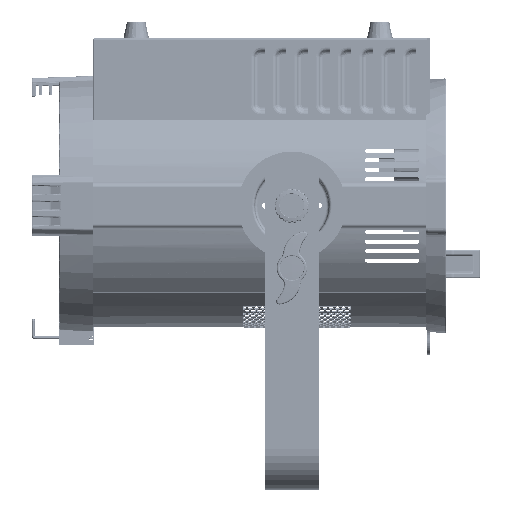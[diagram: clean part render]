
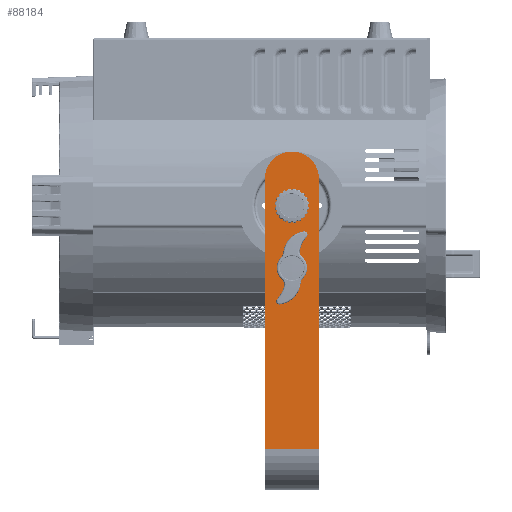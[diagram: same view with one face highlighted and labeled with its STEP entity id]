
A CAD part, left-side view. The second image highlights one B-rep face of the part: STEP entity #88184.
In plain terms, the highlighted planar face has unit normal (-1, 0, 0) as drawn and (0, 1, 0) by its records, which use the part's own axes.
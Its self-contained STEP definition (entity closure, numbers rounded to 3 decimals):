
#87505=CARTESIAN_POINT('',(0.,105.,-105.));
#87506=DIRECTION('',(0.,1.,0.));
#87507=DIRECTION('',(1.,0.,0.));
#87508=AXIS2_PLACEMENT_3D('',#87505,#87506,#87507);
#87513=DIRECTION('',(0.,0.,-1.));
#87514=VECTOR('',#87513,200.);
#87515=CARTESIAN_POINT('',(20.,105.,95.));
#87516=LINE('',#87515,#87514);
#87520=DIRECTION('',(1.,0.,0.));
#87521=VECTOR('',#87520,40.);
#87522=CARTESIAN_POINT('',(-20.,105.,95.));
#87523=LINE('',#87522,#87521);
#87527=DIRECTION('',(0.,0.,1.));
#87528=VECTOR('',#87527,200.);
#87529=CARTESIAN_POINT('',(-20.,105.,-105.));
#87530=LINE('',#87529,#87528);
#87534=CARTESIAN_POINT('',(0.,105.,-85.));
#87535=DIRECTION('',(0.,1.,0.));
#87536=DIRECTION('',(1.,0.,0.));
#87537=AXIS2_PLACEMENT_3D('',#87534,#87535,#87536);
#87542=CARTESIAN_POINT('',(0.,105.,-85.));
#87543=DIRECTION('',(0.,1.,0.));
#87544=DIRECTION('',(-1.,0.,0.));
#87545=AXIS2_PLACEMENT_3D('',#87542,#87543,#87544);
#87550=DIRECTION('',(0.,0.,1.));
#87551=VECTOR('',#87550,8.);
#87552=CARTESIAN_POINT('',(4.,105.,-43.));
#87553=LINE('',#87552,#87551);
#87557=DIRECTION('',(1.,0.,0.));
#87558=VECTOR('',#87557,8.);
#87559=CARTESIAN_POINT('',(-4.,105.,-43.));
#87560=LINE('',#87559,#87558);
#87564=DIRECTION('',(0.,0.,-1.));
#87565=VECTOR('',#87564,8.);
#87566=CARTESIAN_POINT('',(-4.,105.,-35.));
#87567=LINE('',#87566,#87565);
#87571=DIRECTION('',(-1.,0.,0.));
#87572=VECTOR('',#87571,8.);
#87573=CARTESIAN_POINT('',(4.,105.,-35.));
#87574=LINE('',#87573,#87572);
#87817=CARTESIAN_POINT('',(20.,105.,95.));
#87819=VERTEX_POINT('',#87817);
#87823=CARTESIAN_POINT('',(-20.,105.,95.));
#87824=VERTEX_POINT('',#87823);
#87833=CARTESIAN_POINT('',(20.,105.,-105.));
#87834=CARTESIAN_POINT('',(-20.,105.,-105.));
#87835=VERTEX_POINT('',#87833);
#87836=VERTEX_POINT('',#87834);
#87869=CARTESIAN_POINT('',(4.5,105.,-85.));
#87870=CARTESIAN_POINT('',(-4.5,105.,-85.));
#87871=VERTEX_POINT('',#87869);
#87872=VERTEX_POINT('',#87870);
#87889=CARTESIAN_POINT('',(4.,105.,-43.));
#87890=CARTESIAN_POINT('',(4.,105.,-35.));
#87891=VERTEX_POINT('',#87889);
#87892=VERTEX_POINT('',#87890);
#87893=CARTESIAN_POINT('',(-4.,105.,-35.));
#87894=VERTEX_POINT('',#87893);
#87895=CARTESIAN_POINT('',(-4.,105.,-43.));
#87896=VERTEX_POINT('',#87895);
#88157=CARTESIAN_POINT('',(0.,105.,0.));
#88158=DIRECTION('',(0.,1.,0.));
#88159=DIRECTION('',(1.,0.,0.));
#88160=AXIS2_PLACEMENT_3D('',#88157,#88158,#88159);
#88161=PLANE('',#88160);
#88162=ORIENTED_EDGE('',*,*,#87993,.F.);
#88163=ORIENTED_EDGE('',*,*,#88087,.F.);
#88164=ORIENTED_EDGE('',*,*,#88152,.F.);
#88165=ORIENTED_EDGE('',*,*,#88046,.F.);
#88166=EDGE_LOOP('',(#88162,#88163,#88164,#88165));
#88167=FACE_OUTER_BOUND('',#88166,.F.);
#88169=ORIENTED_EDGE('',*,*,#88168,.T.);
#88171=ORIENTED_EDGE('',*,*,#88170,.T.);
#88172=EDGE_LOOP('',(#88169,#88171));
#88173=FACE_BOUND('',#88172,.F.);
#88175=ORIENTED_EDGE('',*,*,#88174,.F.);
#88177=ORIENTED_EDGE('',*,*,#88176,.F.);
#88179=ORIENTED_EDGE('',*,*,#88178,.F.);
#88181=ORIENTED_EDGE('',*,*,#88180,.F.);
#88182=EDGE_LOOP('',(#88175,#88177,#88179,#88181));
#88183=FACE_BOUND('',#88182,.F.);
#87509=CIRCLE('',#87508,20.);
#87538=CIRCLE('',#87537,4.5);
#87546=CIRCLE('',#87545,4.5);
#87993=EDGE_CURVE('',#87835,#87836,#87509,.T.);
#88046=EDGE_CURVE('',#87836,#87824,#87530,.T.);
#88087=EDGE_CURVE('',#87819,#87835,#87516,.T.);
#88152=EDGE_CURVE('',#87824,#87819,#87523,.T.);
#88168=EDGE_CURVE('',#87871,#87872,#87538,.T.);
#88170=EDGE_CURVE('',#87872,#87871,#87546,.T.);
#88174=EDGE_CURVE('',#87891,#87892,#87553,.T.);
#88176=EDGE_CURVE('',#87896,#87891,#87560,.T.);
#88178=EDGE_CURVE('',#87894,#87896,#87567,.T.);
#88180=EDGE_CURVE('',#87892,#87894,#87574,.T.);
#88184=ADVANCED_FACE('',(#88167,#88173,#88183),#88161,.T.);
